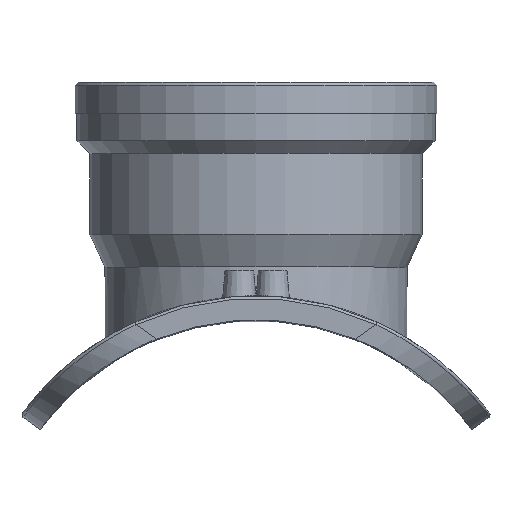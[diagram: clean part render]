
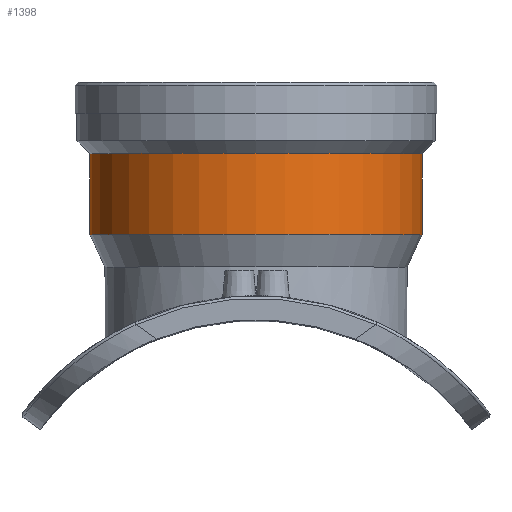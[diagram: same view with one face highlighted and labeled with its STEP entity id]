
A CAD part, top view. The second image highlights one B-rep face of the part: STEP entity #1398.
In plain terms, the highlighted cylindrical face has radius 87.273 mm (diameter 174.546 mm), a full revolution.
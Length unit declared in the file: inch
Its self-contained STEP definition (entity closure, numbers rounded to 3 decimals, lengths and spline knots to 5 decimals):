
#156=FACE_OUTER_BOUND('',#249,.T.);
#249=EDGE_LOOP('',(#1261,#1262,#1263,#1264,#1265,#1266));
#330=CIRCLE('',#1573,3.43594);
#331=CIRCLE('',#1574,3.43594);
#332=CIRCLE('',#1576,3.43594);
#333=CIRCLE('',#1577,3.43594);
#405=LINE('',#3576,#475);
#475=VECTOR('',#1966,3.43594);
#654=VERTEX_POINT('',#3566);
#655=VERTEX_POINT('',#3567);
#656=VERTEX_POINT('',#3572);
#657=VERTEX_POINT('',#3573);
#857=EDGE_CURVE('',#654,#655,#330,.T.);
#858=EDGE_CURVE('',#655,#654,#331,.T.);
#860=EDGE_CURVE('',#656,#657,#332,.T.);
#861=EDGE_CURVE('',#657,#656,#333,.T.);
#862=EDGE_CURVE('',#657,#655,#405,.T.);
#1261=ORIENTED_EDGE('',*,*,#860,.F.);
#1262=ORIENTED_EDGE('',*,*,#861,.F.);
#1263=ORIENTED_EDGE('',*,*,#862,.T.);
#1264=ORIENTED_EDGE('',*,*,#858,.T.);
#1265=ORIENTED_EDGE('',*,*,#857,.T.);
#1266=ORIENTED_EDGE('',*,*,#862,.F.);
#1317=CYLINDRICAL_SURFACE('',#1575,3.43594);
#1398=ADVANCED_FACE('',(#156),#1317,.T.);
#1573=AXIS2_PLACEMENT_3D('',#3568,#1955,#1956);
#1574=AXIS2_PLACEMENT_3D('',#3569,#1957,#1958);
#1575=AXIS2_PLACEMENT_3D('',#3571,#1960,#1961);
#1576=AXIS2_PLACEMENT_3D('',#3574,#1962,#1963);
#1577=AXIS2_PLACEMENT_3D('',#3575,#1964,#1965);
#1955=DIRECTION('center_axis',(0.,1.,0.));
#1956=DIRECTION('ref_axis',(1.,0.,0.));
#1957=DIRECTION('center_axis',(0.,1.,0.));
#1958=DIRECTION('ref_axis',(1.,0.,0.));
#1960=DIRECTION('center_axis',(0.,1.,0.));
#1961=DIRECTION('ref_axis',(0.,0.,1.));
#1962=DIRECTION('center_axis',(0.,1.,0.));
#1963=DIRECTION('ref_axis',(1.,0.,0.));
#1964=DIRECTION('center_axis',(0.,1.,0.));
#1965=DIRECTION('ref_axis',(1.,0.,0.));
#1966=DIRECTION('',(0.,-1.,0.));
#3566=CARTESIAN_POINT('',(0.,7.29362,3.43594));
#3567=CARTESIAN_POINT('',(0.,7.29362,-3.43594));
#3568=CARTESIAN_POINT('Origin',(0.,7.29362,0.));
#3569=CARTESIAN_POINT('Origin',(0.,7.29362,0.));
#3571=CARTESIAN_POINT('Origin',(0.,8.13062,0.));
#3572=CARTESIAN_POINT('',(0.,8.96762,3.43594));
#3573=CARTESIAN_POINT('',(0.,8.96762,-3.43594));
#3574=CARTESIAN_POINT('Origin',(0.,8.96762,0.));
#3575=CARTESIAN_POINT('Origin',(0.,8.96762,0.));
#3576=CARTESIAN_POINT('',(0.,8.13062,-3.43594));
